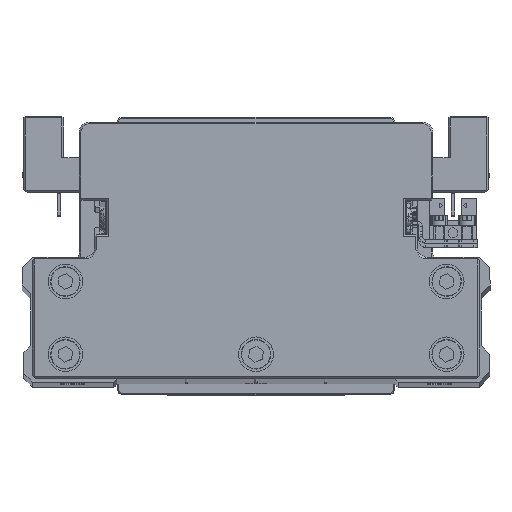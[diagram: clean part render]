
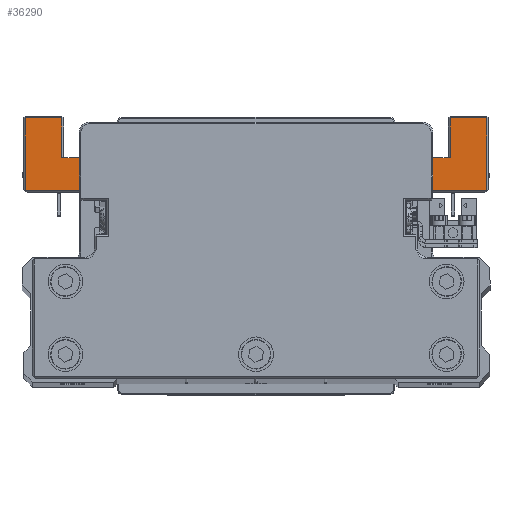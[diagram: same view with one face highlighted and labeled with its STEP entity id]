
A CAD part, top view. The second image highlights one B-rep face of the part: STEP entity #36290.
In plain terms, the highlighted planar face has unit normal (0, 0, 1) as drawn and (0, -1, 0) by its records, which use the part's own axes.
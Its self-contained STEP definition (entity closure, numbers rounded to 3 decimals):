
#296 = CARTESIAN_POINT ( 'NONE',  ( 46., -45., -54. ) ) ;
#316 = DIRECTION ( 'NONE',  ( 0., 0., -1. ) ) ;
#684 = CARTESIAN_POINT ( 'NONE',  ( -46., -45., -54. ) ) ;
#704 = EDGE_CURVE ( 'NONE', #25650, #30523, #4974, .T. ) ;
#748 = EDGE_CURVE ( 'NONE', #31551, #27846, #28190, .T. ) ;
#873 = ORIENTED_EDGE ( 'NONE', *, *, #2397, .T. ) ;
#1285 = ORIENTED_EDGE ( 'NONE', *, *, #25635, .T. ) ;
#1442 = CARTESIAN_POINT ( 'NONE',  ( 66.5, -45., -64. ) ) ;
#1669 = CARTESIAN_POINT ( 'NONE',  ( 67., -45., -64. ) ) ;
#1989 = LINE ( 'NONE', #14418, #34136 ) ;
#2174 = VECTOR ( 'NONE', #6595, 1000. ) ;
#2297 = CARTESIAN_POINT ( 'NONE',  ( -77.786, -45., -42.5 ) ) ;
#2319 = DIRECTION ( 'NONE',  ( -0.991, 0., 0.132 ) ) ;
#2346 = VERTEX_POINT ( 'NONE', #20122 ) ;
#2397 = EDGE_CURVE ( 'NONE', #33067, #22964, #39005, .T. ) ;
#2834 = LINE ( 'NONE', #15271, #33750 ) ;
#3005 = DIRECTION ( 'NONE',  ( -1., 0., 0. ) ) ;
#3416 = EDGE_CURVE ( 'NONE', #39481, #31244, #10737, .T. ) ;
#3800 = AXIS2_PLACEMENT_3D ( 'NONE', #38760, #10923, #23326 ) ;
#4056 = DIRECTION ( 'NONE',  ( 0., 0., -1. ) ) ;
#4379 = ORIENTED_EDGE ( 'NONE', *, *, #5203, .T. ) ;
#4954 = VERTEX_POINT ( 'NONE', #1442 ) ;
#4974 = CIRCLE ( 'NONE', #27718, 1.5 ) ;
#5117 = VECTOR ( 'NONE', #14118, 1000. ) ;
#5167 = VECTOR ( 'NONE', #24816, 1000. ) ;
#5203 = EDGE_CURVE ( 'NONE', #22964, #2346, #2834, .T. ) ;
#5460 = ORIENTED_EDGE ( 'NONE', *, *, #11272, .T. ) ;
#5501 = VECTOR ( 'NONE', #6089, 1000. ) ;
#5777 = ORIENTED_EDGE ( 'NONE', *, *, #12879, .F. ) ;
#6013 = DIRECTION ( 'NONE',  ( 0., 0., -1. ) ) ;
#6089 = DIRECTION ( 'NONE',  ( 0., 0., 1. ) ) ;
#6595 = DIRECTION ( 'NONE',  ( -1., 0., 0. ) ) ;
#7504 = VERTEX_POINT ( 'NONE', #37343 ) ;
#7871 = CARTESIAN_POINT ( 'NONE',  ( -46., -45., -52.5 ) ) ;
#8013 = VECTOR ( 'NONE', #8943, 1000. ) ;
#8177 = EDGE_CURVE ( 'NONE', #23572, #4954, #29546, .T. ) ;
#8371 = EDGE_CURVE ( 'NONE', #2346, #24906, #39896, .T. ) ;
#8460 = EDGE_CURVE ( 'NONE', #39539, #24906, #37673, .T. ) ;
#8943 = DIRECTION ( 'NONE',  ( -0.991, 0., -0.132 ) ) ;
#9018 = DIRECTION ( 'NONE',  ( 0., 1., 0. ) ) ;
#9519 = VERTEX_POINT ( 'NONE', #37039 ) ;
#9700 = VECTOR ( 'NONE', #24453, 1000. ) ;
#9827 = CARTESIAN_POINT ( 'NONE',  ( -55.5, -45., -52.5 ) ) ;
#10394 = ORIENTED_EDGE ( 'NONE', *, *, #40078, .T. ) ;
#10428 = CARTESIAN_POINT ( 'NONE',  ( 40.066, -45., -43. ) ) ;
#10737 = LINE ( 'NONE', #12426, #5167 ) ;
#10910 = VECTOR ( 'NONE', #2319, 1000. ) ;
#10923 = DIRECTION ( 'NONE',  ( 0., -1., 0. ) ) ;
#11163 = CARTESIAN_POINT ( 'NONE',  ( -66.5, -45., -64.5 ) ) ;
#11272 = EDGE_CURVE ( 'NONE', #7504, #33067, #18492, .T. ) ;
#11550 = CARTESIAN_POINT ( 'NONE',  ( 46., -45., -54. ) ) ;
#11829 = CARTESIAN_POINT ( 'NONE',  ( 66.5, -45., -43. ) ) ;
#12063 = CARTESIAN_POINT ( 'NONE',  ( -56., -45., -52.5 ) ) ;
#12256 = CARTESIAN_POINT ( 'NONE',  ( -66.5, -45., -64. ) ) ;
#12426 = CARTESIAN_POINT ( 'NONE',  ( 55.5, -45., -52.5 ) ) ;
#12736 = ORIENTED_EDGE ( 'NONE', *, *, #3416, .F. ) ;
#12746 = DIRECTION ( 'NONE',  ( 1., 0., 0. ) ) ;
#12879 = EDGE_CURVE ( 'NONE', #31551, #39539, #1989, .T. ) ;
#13612 = AXIS2_PLACEMENT_3D ( 'NONE', #36860, #9018, #21439 ) ;
#13657 = ORIENTED_EDGE ( 'NONE', *, *, #8460, .F. ) ;
#13978 = FACE_OUTER_BOUND ( 'NONE', #39490, .T. ) ;
#14036 = VECTOR ( 'NONE', #3005, 1000. ) ;
#14050 = ORIENTED_EDGE ( 'NONE', *, *, #748, .T. ) ;
#14118 = DIRECTION ( 'NONE',  ( 1., 0., 0. ) ) ;
#14418 = CARTESIAN_POINT ( 'NONE',  ( -46., -45., -52.5 ) ) ;
#14727 = DIRECTION ( 'NONE',  ( -1., 0., 0. ) ) ;
#15271 = CARTESIAN_POINT ( 'NONE',  ( -55.5, -45., -64. ) ) ;
#15813 = LINE ( 'NONE', #28204, #18336 ) ;
#16881 = CARTESIAN_POINT ( 'NONE',  ( -56., -45., -52.5 ) ) ;
#17167 = ORIENTED_EDGE ( 'NONE', *, *, #29710, .T. ) ;
#17808 = LINE ( 'NONE', #30178, #10910 ) ;
#18336 = VECTOR ( 'NONE', #316, 1000. ) ;
#18492 = LINE ( 'NONE', #30867, #14036 ) ;
#18938 = EDGE_CURVE ( 'NONE', #31244, #27846, #15813, .T. ) ;
#18952 = ORIENTED_EDGE ( 'NONE', *, *, #21559, .T. ) ;
#19211 = ORIENTED_EDGE ( 'NONE', *, *, #36929, .T. ) ;
#19215 = CARTESIAN_POINT ( 'NONE',  ( 36.217, -45., -42.5 ) ) ;
#19460 = VERTEX_POINT ( 'NONE', #19215 ) ;
#19541 = LINE ( 'NONE', #31919, #39436 ) ;
#20122 = CARTESIAN_POINT ( 'NONE',  ( -56., -45., -64. ) ) ;
#21439 = DIRECTION ( 'NONE',  ( 0., 0., -1. ) ) ;
#21501 = CARTESIAN_POINT ( 'NONE',  ( 40.066, -45., -41.5 ) ) ;
#21559 = EDGE_CURVE ( 'NONE', #4954, #33559, #21578, .T. ) ;
#21578 = LINE ( 'NONE', #33940, #5501 ) ;
#21717 = ORIENTED_EDGE ( 'NONE', *, *, #704, .T. ) ;
#22068 = LINE ( 'NONE', #34457, #2174 ) ;
#22228 = DIRECTION ( 'NONE',  ( -1., 0., 0. ) ) ;
#22964 = VERTEX_POINT ( 'NONE', #12256 ) ;
#23326 = DIRECTION ( 'NONE',  ( 0., 0., -1. ) ) ;
#23552 = DIRECTION ( 'NONE',  ( 0., 0., -1. ) ) ;
#23572 = VERTEX_POINT ( 'NONE', #28852 ) ;
#24054 = VERTEX_POINT ( 'NONE', #29735 ) ;
#24232 = CARTESIAN_POINT ( 'NONE',  ( 39.868, -45., -42.987 ) ) ;
#24396 = LINE ( 'NONE', #36796, #8013 ) ;
#24453 = DIRECTION ( 'NONE',  ( 0., 0., 1. ) ) ;
#24468 = VECTOR ( 'NONE', #22228, 1000. ) ;
#24633 = EDGE_CURVE ( 'NONE', #9519, #24054, #24396, .T. ) ;
#24816 = DIRECTION ( 'NONE',  ( -1., 0., 0. ) ) ;
#24906 = VERTEX_POINT ( 'NONE', #16881 ) ;
#25635 = EDGE_CURVE ( 'NONE', #33559, #25650, #22068, .T. ) ;
#25650 = VERTEX_POINT ( 'NONE', #10428 ) ;
#26375 = PLANE ( 'NONE',  #3800 ) ;
#26808 = DIRECTION ( 'NONE',  ( 0., 0., 1. ) ) ;
#27194 = VECTOR ( 'NONE', #14727, 1000. ) ;
#27667 = DIRECTION ( 'NONE',  ( 1., 0., 0. ) ) ;
#27718 = AXIS2_PLACEMENT_3D ( 'NONE', #21501, #33863, #6013 ) ;
#27846 = VERTEX_POINT ( 'NONE', #11550 ) ;
#28190 = LINE ( 'NONE', #296, #30950 ) ;
#28204 = CARTESIAN_POINT ( 'NONE',  ( 46., -45., -52.5 ) ) ;
#28852 = CARTESIAN_POINT ( 'NONE',  ( 56., -45., -64. ) ) ;
#28856 = ORIENTED_EDGE ( 'NONE', *, *, #8371, .T. ) ;
#29029 = CARTESIAN_POINT ( 'NONE',  ( 56., -45., -52.5 ) ) ;
#29546 = LINE ( 'NONE', #1669, #5117 ) ;
#29710 = EDGE_CURVE ( 'NONE', #30523, #19460, #17808, .T. ) ;
#29735 = CARTESIAN_POINT ( 'NONE',  ( -39.868, -45., -42.987 ) ) ;
#30156 = LINE ( 'NONE', #2297, #27194 ) ;
#30178 = CARTESIAN_POINT ( 'NONE',  ( 25.802, -45., -41.111 ) ) ;
#30523 = VERTEX_POINT ( 'NONE', #24232 ) ;
#30867 = CARTESIAN_POINT ( 'NONE',  ( -66., -45., -43. ) ) ;
#30950 = VECTOR ( 'NONE', #12746, 1000. ) ;
#31115 = CIRCLE ( 'NONE', #13612, 1.5 ) ;
#31244 = VERTEX_POINT ( 'NONE', #35698 ) ;
#31551 = VERTEX_POINT ( 'NONE', #684 ) ;
#31555 = ORIENTED_EDGE ( 'NONE', *, *, #33838, .T. ) ;
#31919 = CARTESIAN_POINT ( 'NONE',  ( 56., -45., -64.5 ) ) ;
#32708 = ORIENTED_EDGE ( 'NONE', *, *, #8177, .T. ) ;
#32845 = CARTESIAN_POINT ( 'NONE',  ( -66.5, -45., -43. ) ) ;
#33067 = VERTEX_POINT ( 'NONE', #32845 ) ;
#33559 = VERTEX_POINT ( 'NONE', #11829 ) ;
#33562 = ORIENTED_EDGE ( 'NONE', *, *, #24633, .T. ) ;
#33750 = VECTOR ( 'NONE', #27667, 1000. ) ;
#33838 = EDGE_CURVE ( 'NONE', #39481, #23572, #19541, .T. ) ;
#33863 = DIRECTION ( 'NONE',  ( 0., 1., 0. ) ) ;
#33940 = CARTESIAN_POINT ( 'NONE',  ( 66.5, -45., -43.5 ) ) ;
#34136 = VECTOR ( 'NONE', #26808, 1000. ) ;
#34457 = CARTESIAN_POINT ( 'NONE',  ( 40.066, -45., -43. ) ) ;
#35698 = CARTESIAN_POINT ( 'NONE',  ( 46., -45., -52.5 ) ) ;
#36283 = VECTOR ( 'NONE', #23552, 1000. ) ;
#36290 = ADVANCED_FACE ( 'NONE', ( #13978 ), #26375, .T. ) ;
#36796 = CARTESIAN_POINT ( 'NONE',  ( -39.868, -45., -42.987 ) ) ;
#36860 = CARTESIAN_POINT ( 'NONE',  ( -40.066, -45., -41.5 ) ) ;
#36929 = EDGE_CURVE ( 'NONE', #24054, #7504, #31115, .T. ) ;
#37039 = CARTESIAN_POINT ( 'NONE',  ( -36.217, -45., -42.5 ) ) ;
#37343 = CARTESIAN_POINT ( 'NONE',  ( -40.066, -45., -43. ) ) ;
#37673 = LINE ( 'NONE', #9827, #24468 ) ;
#38183 = ORIENTED_EDGE ( 'NONE', *, *, #18938, .F. ) ;
#38760 = CARTESIAN_POINT ( 'NONE',  ( 0., -45., 0. ) ) ;
#39005 = LINE ( 'NONE', #11163, #36283 ) ;
#39436 = VECTOR ( 'NONE', #4056, 1000. ) ;
#39481 = VERTEX_POINT ( 'NONE', #29029 ) ;
#39490 = EDGE_LOOP ( 'NONE', ( #10394, #33562, #19211, #5460, #873, #4379, #28856, #13657, #5777, #14050, #38183, #12736, #31555, #32708, #18952, #1285, #21717, #17167 ) ) ;
#39539 = VERTEX_POINT ( 'NONE', #7871 ) ;
#39896 = LINE ( 'NONE', #12063, #9700 ) ;
#40078 = EDGE_CURVE ( 'NONE', #19460, #9519, #30156, .T. ) ;
